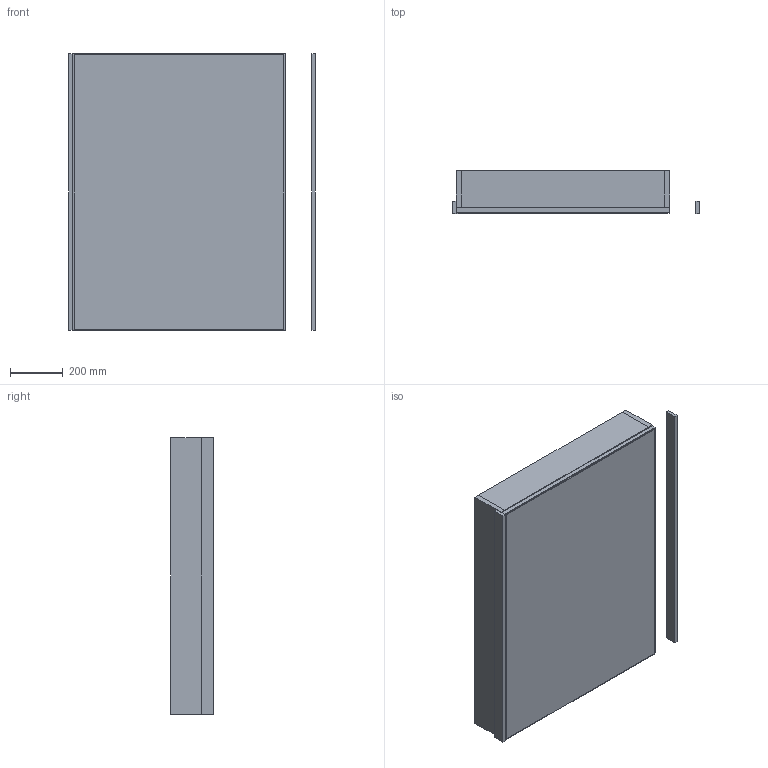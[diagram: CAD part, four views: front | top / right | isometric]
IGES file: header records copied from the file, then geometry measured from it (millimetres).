
Start section: Data from Parasolid IGES Translator 19.0.9, Copyright(c) 2006 Siemens PL M Software. All Rights Reserved.
Global section: file name: noorth-mirror-H 105 D 4,5-16 W 81_9157.igs; native system: By Siemens PLM Incorporated; preprocessor: XPlus GENERIC/IGES 19.0.9; author: Noname; organization: Noname; date: 20200519.113430; units: metre
Bounding box: 933.82 x 162 x 1050 mm (x, y, z)
Volume: 29846327.2 mm3; surface area: 6499738 mm2
Topology: 10 solids, 10 shells, 84 faces, 168 edges, 104 vertices
Faces by surface type: plane 84
